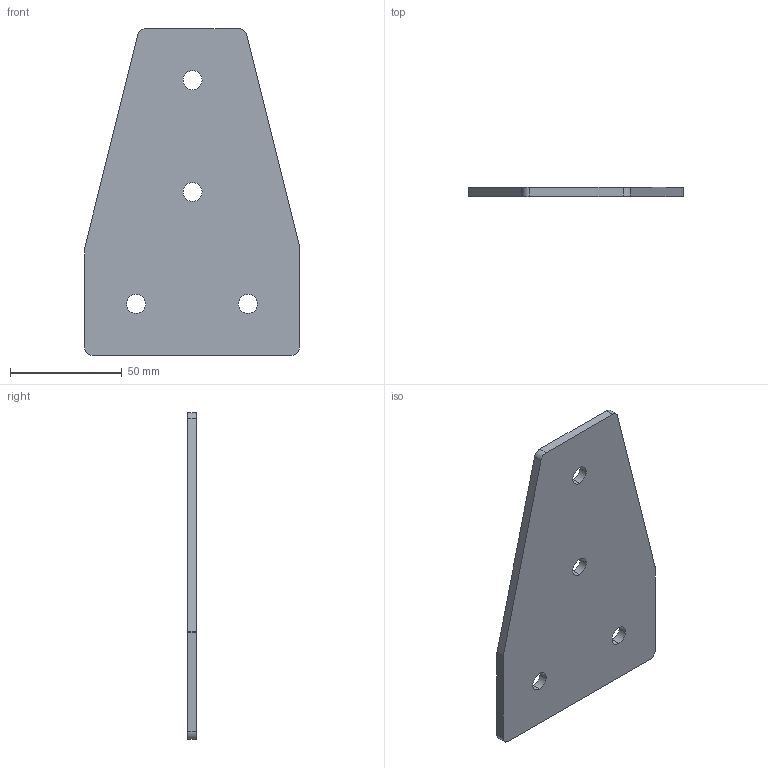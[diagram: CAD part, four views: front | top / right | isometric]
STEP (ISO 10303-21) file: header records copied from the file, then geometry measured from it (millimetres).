
FILE_DESCRIPTION (( 'STEP AP203' ), '1' );
FILE_NAME ('ﾒ-4-ﾓ-50.STEP', '2017-03-22T10:22:55', ( 'RosInstal-MKM' ), ( '' ), 'SwSTEP 2.0', 'SolidWorks 2014', '' );
FILE_SCHEMA (( 'CONFIG_CONTROL_DESIGN' ));
Length unit declared in the file: millimetre
Products named in the file (1): ﾒ-4-ﾓ-50
Bounding box: 96 x 4 x 146 mm (x, y, z)
Volume: 45610.7 mm3; surface area: 24979.6 mm2
Topology: 1 solids, 1 shells, 22 faces, 60 edges, 40 vertices
Faces by surface type: cylinder 14, plane 8
Entity records: 805 total; most frequent: DIRECTION 134, CARTESIAN_POINT 123, ORIENTED_EDGE 120, EDGE_CURVE 60, AXIS2_PLACEMENT_3D 51, VERTEX_POINT 40, LINE 32, VECTOR 32
